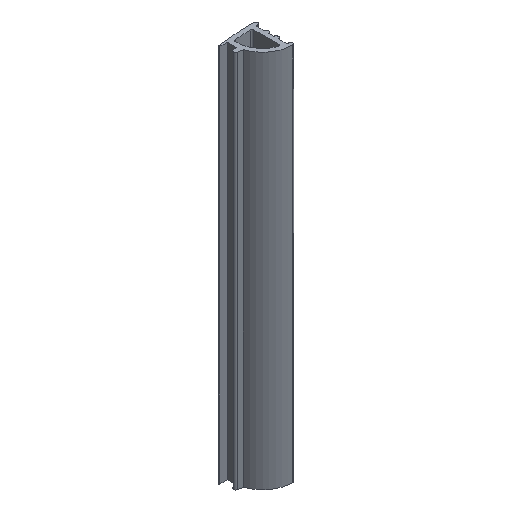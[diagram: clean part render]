
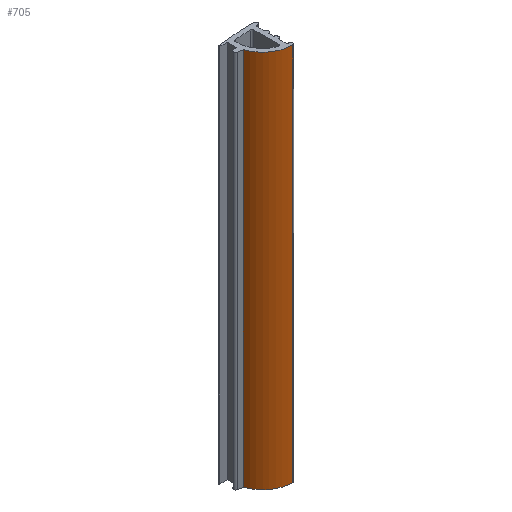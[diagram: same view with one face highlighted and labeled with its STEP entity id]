
A CAD part, isometric view. The second image highlights one B-rep face of the part: STEP entity #705.
In plain terms, the highlighted cylindrical face has radius 8 mm (diameter 16 mm), a partial arc.
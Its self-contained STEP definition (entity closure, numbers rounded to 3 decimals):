
#4 = VECTOR ( 'NONE', #986, 1000. ) ;
#9 = CARTESIAN_POINT ( 'NONE',  ( -0.5, 1.219, 0. ) ) ;
#34 = CARTESIAN_POINT ( 'NONE',  ( -8.087, -1.32, 100. ) ) ;
#49 = DIRECTION ( 'NONE',  ( -1., 0., 0. ) ) ;
#84 = EDGE_CURVE ( 'NONE', #803, #110, #886, .T. ) ;
#85 = DIRECTION ( 'NONE',  ( -1., 0., 0. ) ) ;
#92 = CIRCLE ( 'NONE', #134, 8. ) ;
#93 = CARTESIAN_POINT ( 'NONE',  ( -0.5, -6.781, 0. ) ) ;
#110 = VERTEX_POINT ( 'NONE', #93 ) ;
#119 = ORIENTED_EDGE ( 'NONE', *, *, #574, .T. ) ;
#134 = AXIS2_PLACEMENT_3D ( 'NONE', #901, #997, #197 ) ;
#142 = LINE ( 'NONE', #648, #4 ) ;
#183 = EDGE_CURVE ( 'NONE', #307, #110, #142, .T. ) ;
#197 = DIRECTION ( 'NONE',  ( -1., 0., 0. ) ) ;
#204 = ORIENTED_EDGE ( 'NONE', *, *, #84, .T. ) ;
#215 = CARTESIAN_POINT ( 'NONE',  ( -0.5, 1.219, 100. ) ) ;
#242 = ORIENTED_EDGE ( 'NONE', *, *, #183, .F. ) ;
#286 = CARTESIAN_POINT ( 'NONE',  ( -0.5, -6.781, 100. ) ) ;
#307 = VERTEX_POINT ( 'NONE', #286 ) ;
#368 = FACE_OUTER_BOUND ( 'NONE', #470, .T. ) ;
#402 = AXIS2_PLACEMENT_3D ( 'NONE', #9, #639, #85 ) ;
#426 = CYLINDRICAL_SURFACE ( 'NONE', #832, 8. ) ;
#456 = VECTOR ( 'NONE', #894, 1000. ) ;
#470 = EDGE_LOOP ( 'NONE', ( #204, #242, #558, #119 ) ) ;
#541 = CARTESIAN_POINT ( 'NONE',  ( -8.087, -1.32, 100. ) ) ;
#558 = ORIENTED_EDGE ( 'NONE', *, *, #563, .F. ) ;
#563 = EDGE_CURVE ( 'NONE', #643, #307, #92, .T. ) ;
#574 = EDGE_CURVE ( 'NONE', #643, #803, #655, .T. ) ;
#639 = DIRECTION ( 'NONE',  ( 0., 0., 1. ) ) ;
#643 = VERTEX_POINT ( 'NONE', #541 ) ;
#648 = CARTESIAN_POINT ( 'NONE',  ( -0.5, -6.781, 100. ) ) ;
#655 = LINE ( 'NONE', #34, #456 ) ;
#705 = ADVANCED_FACE ( 'NONE', ( #368 ), #426, .T. ) ;
#803 = VERTEX_POINT ( 'NONE', #1021 ) ;
#832 = AXIS2_PLACEMENT_3D ( 'NONE', #215, #1000, #49 ) ;
#886 = CIRCLE ( 'NONE', #402, 8. ) ;
#894 = DIRECTION ( 'NONE',  ( 0., 0., -1. ) ) ;
#901 = CARTESIAN_POINT ( 'NONE',  ( -0.5, 1.219, 100. ) ) ;
#986 = DIRECTION ( 'NONE',  ( 0., 0., -1. ) ) ;
#997 = DIRECTION ( 'NONE',  ( 0., 0., 1. ) ) ;
#1000 = DIRECTION ( 'NONE',  ( 0., 0., -1. ) ) ;
#1021 = CARTESIAN_POINT ( 'NONE',  ( -8.087, -1.32, 0. ) ) ;
